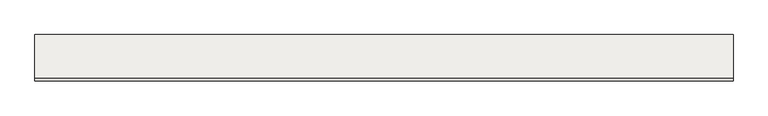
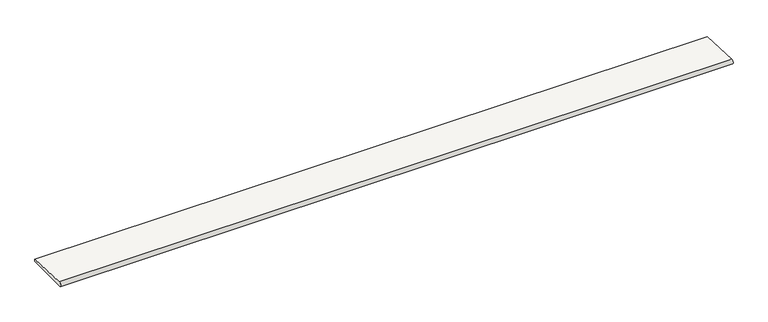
"""IFC4 building model written with IfcOpenShell, lengths in millimetres: slab geometry, ROSA GRES_S62 : Pieza S62_Serena_Ocra_Anti-Slip."""

from ifc_helpers import new_model, si_unit, point, frame, frame_2d, origin, place, context, project, spatial, polyline, circle_curve, trimmed, segment, composite_curve, outline, extrude, source, transform, mapped, element, save


def slab_2631fdd8(model_context):
    return source(origin(), model_context, "Body", "SweptSolid", [
        extrude(outline(composite_curve([segment(polyline([(-0.261516, 14.0545458), (291.6389713, 0.0), (291.6389713, -12.0), (-15.0, -12.0)]), True, "CONTINUOUS"), segment(trimmed(circle_curve(frame_2d((-1.0275626, -2.7080096)), 16.7800504), [point((-15.0, -12.0))], [point((-0.261516, 14.0545458))], False, "CARTESIAN"), True, "CONTINUOUS")], self_intersect=False)), frame((0.0, 0.0, 0.0), z_axis=(1.0, 0.0, 0.0), x_axis=(0.0, 1.0, 0.0)), (0.0, 0.0, 1.0), 4660.0),
    ])


if __name__ == "__main__":
    model = new_model("IFC4")
    model_context = context("Model", 3, world=origin())
    ifc_project = project(units=[si_unit("LENGTHUNIT", "METRE", prefix="MILLI")], contexts=[model_context])
    site = spatial("IfcSite", under=ifc_project)
    building = spatial("IfcBuilding", under=site)
    placement = place(None, origin())
    slab_shape = slab_2631fdd8(model_context)
    element("IfcSlab", 1, ObjectType="ROSA GRES_S62 : Pieza S62_Serena_Ocra_Anti-Slip", at=placement, inside=building, context=model_context, shape_type="MappedRepresentation", body=[
        mapped(slab_shape, transform((0.0, 0.0, 0.0), x_axis=(1.0, 0.0, 0.0), y_axis=(0.0, 1.0, 0.0), z_axis=(0.0, 0.0, 1.0))),
    ])
    save(model, "model.ifc")
